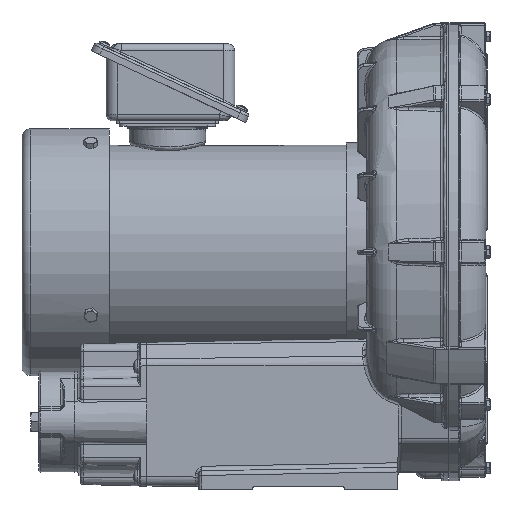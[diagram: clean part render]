
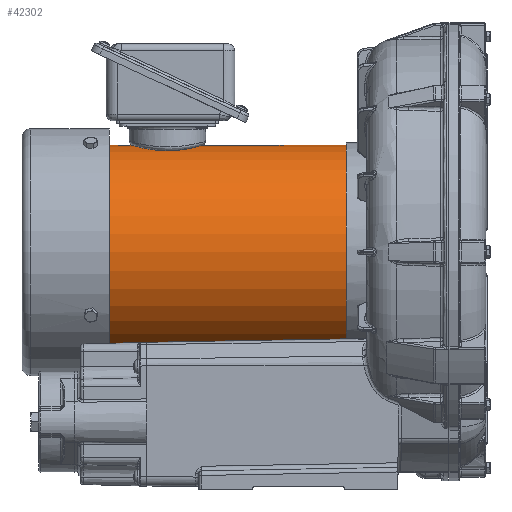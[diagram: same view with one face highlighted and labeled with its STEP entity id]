
A CAD part, left-side view. The second image highlights one B-rep face of the part: STEP entity #42302.
In plain terms, the highlighted cylindrical face has radius 69.8 mm (diameter 139.6 mm), a full revolution.
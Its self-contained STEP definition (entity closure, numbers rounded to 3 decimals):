
#3526=LINE('',#66982,#5040);
#5040=VECTOR('',#52131,44.8);
#10233=FACE_BOUND('',#13832,.T.);
#10234=FACE_BOUND('',#13833,.T.);
#11023=FACE_OUTER_BOUND('',#13831,.T.);
#13831=EDGE_LOOP('',(#31890));
#13832=EDGE_LOOP('',(#31891,#31892));
#13833=EDGE_LOOP('',(#31893));
#16473=CIRCLE('',#45603,69.8);
#16495=CIRCLE('',#45654,69.8);
#19514=VERTEX_POINT('',#66970);
#19517=VERTEX_POINT('',#66980);
#19518=VERTEX_POINT('',#66981);
#19543=VERTEX_POINT('',#67215);
#23845=EDGE_CURVE('',#19514,#19514,#16473,.T.);
#23848=EDGE_CURVE('',#19517,#19518,#3526,.T.);
#23884=EDGE_CURVE('',#19543,#19543,#16495,.T.);
#31890=ORIENTED_EDGE('',*,*,#23845,.T.);
#31891=ORIENTED_EDGE('',*,*,#23848,.T.);
#31892=ORIENTED_EDGE('',*,*,#23848,.F.);
#31893=ORIENTED_EDGE('',*,*,#23884,.F.);
#41152=CYLINDRICAL_SURFACE('',#45653,69.8);
#42302=ADVANCED_FACE('',(#11023,#10233,#10234),#41152,.T.);
#45603=AXIS2_PLACEMENT_3D('',#66971,#52117,#52118);
#45653=AXIS2_PLACEMENT_3D('',#67214,#52230,#52231);
#45654=AXIS2_PLACEMENT_3D('',#67216,#52232,#52233);
#52117=DIRECTION('center_axis',(0.,-1.,0.));
#52118=DIRECTION('ref_axis',(0.,0.,
1.));
#52131=DIRECTION('',(0.,1.,0.));
#52230=DIRECTION('center_axis',(0.,1.,0.));
#52231=DIRECTION('ref_axis',(0.,0.,
1.));
#52232=DIRECTION('center_axis',(0.,-1.,0.));
#52233=DIRECTION('ref_axis',(0.,0.,
1.));
#66970=CARTESIAN_POINT('',(0.,222.401,-69.8));
#66971=CARTESIAN_POINT('Origin',(0.,222.401,
0.));
#66980=CARTESIAN_POINT('',(0.002,162.003,69.798));
#66981=CARTESIAN_POINT('',(0.,206.798,69.798));
#66982=CARTESIAN_POINT('',(0.,184.401,69.8));
#67214=CARTESIAN_POINT('Origin',(0.,147.401,
0.));
#67215=CARTESIAN_POINT('',(0.,67.401,69.8));
#67216=CARTESIAN_POINT('Origin',(0.,67.401,
0.));
